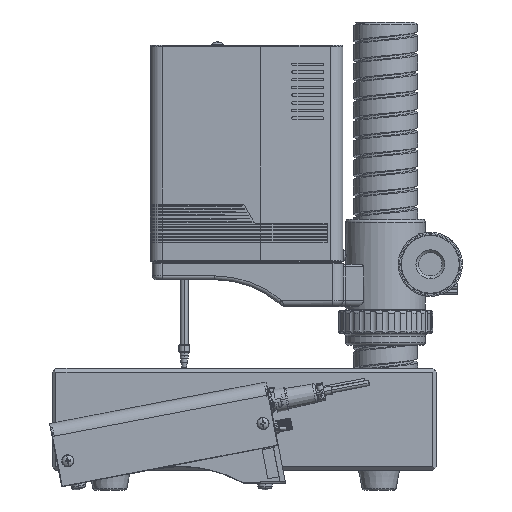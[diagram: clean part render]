
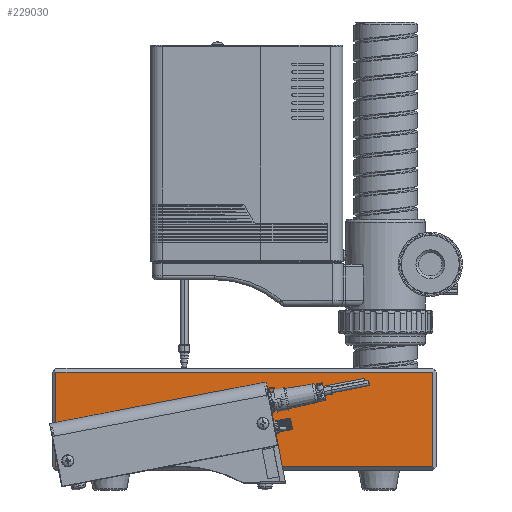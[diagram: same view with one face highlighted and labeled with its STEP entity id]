
A CAD part, front view. The second image highlights one B-rep face of the part: STEP entity #229030.
In plain terms, the highlighted planar face has unit normal (0, -1, 0) as drawn and (0.588, 0.809, 0) by its records, which use the part's own axes.
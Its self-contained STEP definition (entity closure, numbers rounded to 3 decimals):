
#228640=CARTESIAN_POINT('',(41.112,124.639,0.));
#228650=DIRECTION('',(-0.588,-0.809,-0.));
#228660=DIRECTION('',(-0.809,0.588,0.));
#228670=AXIS2_PLACEMENT_3D('',#228640,#228650,#228660);
#228680=PLANE('',#228670);
#228690=CARTESIAN_POINT('',(162.465,36.471,-77.));
#228700=DIRECTION('',(0.809,-0.588,0.));
#228710=VECTOR('',#228700,1.);
#228720=LINE('',#228690,#228710);
#228730=CARTESIAN_POINT('',(43.54,122.875,-77.));
#228740=VERTEX_POINT('',#228730);
#228750=CARTESIAN_POINT('',(281.391,-49.934,-77.));
#228760=VERTEX_POINT('',#228750);
#228770=EDGE_CURVE('',#228740,#228760,#228720,.T.);
#228780=ORIENTED_EDGE('',*,*,#228770,.F.);
#228790=CARTESIAN_POINT('',(281.391,-49.934,-40.));
#228800=DIRECTION('',(0.,0.,-1.));
#228810=VECTOR('',#228800,1.);
#228820=LINE('',#228790,#228810);
#228830=CARTESIAN_POINT('',(281.391,-49.934,
-3.));
#228840=VERTEX_POINT('',#228830);
#228850=EDGE_CURVE('',#228840,#228760,#228820,.T.);
#228860=ORIENTED_EDGE('',*,*,#228850,.T.);
#228870=CARTESIAN_POINT('',(162.465,36.471,-3.));
#228880=DIRECTION('',(0.809,-0.588,0.));
#228890=VECTOR('',#228880,1.);
#228900=LINE('',#228870,#228890);
#228910=CARTESIAN_POINT('',(43.54,122.875,-3.));
#228920=VERTEX_POINT('',#228910);
#228930=EDGE_CURVE('',#228920,#228840,#228900,.T.);
#228940=ORIENTED_EDGE('',*,*,#228930,.T.);
#228950=CARTESIAN_POINT('',(43.54,122.875,-40.));
#228960=DIRECTION('',(0.,0.,-1.));
#228970=VECTOR('',#228960,1.);
#228980=LINE('',#228950,#228970);
#228990=EDGE_CURVE('',#228920,#228740,#228980,.T.);
#229000=ORIENTED_EDGE('',*,*,#228990,.F.);
#229010=EDGE_LOOP('',(#229000,#228940,#228860,#228780));
#229020=FACE_OUTER_BOUND('',#229010,.T.);
#229030=ADVANCED_FACE('',(#229020),#228680,.F.);
